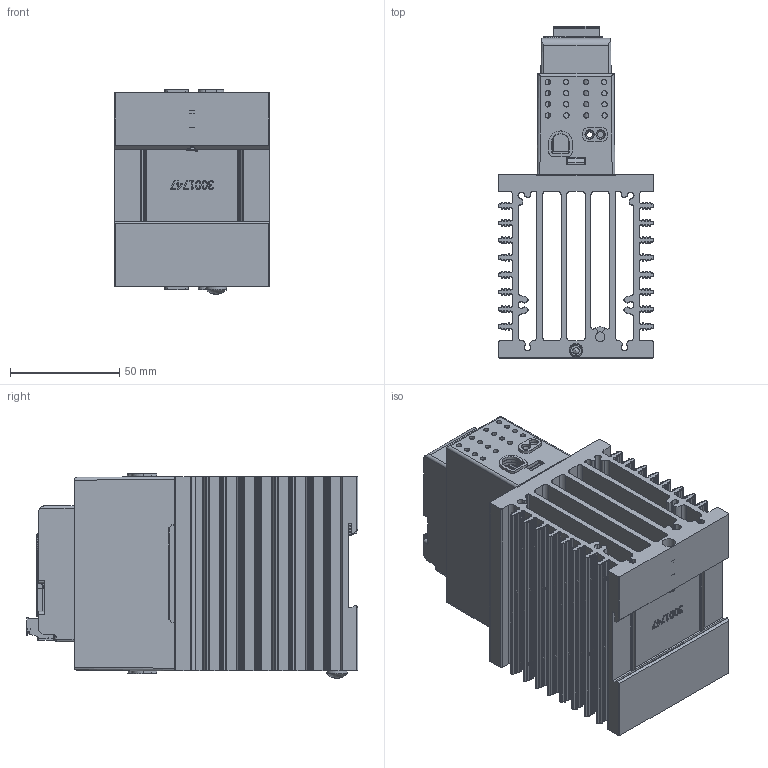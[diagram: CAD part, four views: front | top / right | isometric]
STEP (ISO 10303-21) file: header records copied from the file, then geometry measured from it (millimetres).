
FILE_DESCRIPTION(/* description */ (''),/* implementation_level */ '2;1');
FILE_NAME(/* name */ '1-phase Digital 50A.stp',/* time_stamp */ '2024-10-29T13:11:23-05:00',/* author */ ('ErikG'),/* organization */ (''),/* preprocessor_version */ 'ST-DEVELOPER v20',/* originating_system */ 'Autodesk Inventor 2025',/* authorisation */ '');
FILE_SCHEMA (('AUTOMOTIVE_DESIGN { 1 0 10303 214 3 1 1 }'));
Products named in the file (23): 3001631e; 3001762; 1001592E; P6; fci 6 pin header OQ06120000J0G; fci 6 pin headerOQ06120000J0G half 1; fci 5 pin header OQ05120000J0G half 2; 0053035-0138-06; P4; P5; usb-c31-s-vt-cs4-bk-pp-t-r-model ADAMTECH; P2; 74990101210 (rev1); base; shielding; 3001759; 3001760; 3001755; 3001756; 3001747; 0060783-0610-010.ipt; spring; 0060702-1032-0375
Assembly tree (24 placements, depth 5):
  3001631e
    3001762
    1001592E
      P6
        fci 6 pin header OQ06120000J0G
          fci 6 pin headerOQ06120000J0G half 1
          fci 5 pin header OQ05120000J0G half 2
          0053035-0138-06
      P4
        74990101210 (rev1)
          base
          shielding
      P5
        usb-c31-s-vt-cs4-bk-pp-t-r-model ADAMTECH
      P2
        74990101210 (rev1)
          base
          shielding
    3001759
    3001760  x2
    3001755
    3001756
    3001747
    0060783-0610-010.ipt
    spring
    0060702-1032-0375
Bounding box: 71.12 x 151.78 x 93.49 mm (x, y, z)
Volume: 264216.7 mm3; surface area: 217699.4 mm2
Topology: 19 solids, 109 shells, 6440 faces, 17669 edges, 11551 vertices
Faces by surface type: plane 4634, cylinder 1351, cone 211, bspline 155, torus 70, sphere 19
Full cylindrical faces by diameter (mm): 0.254 x1, 0.45 x2, 0.55 x2, 0.65 x2, 1 x2, 2.3 x12, 2.54 x2, 2.642 x3, 2.95 x6, 3.277 x2, 4.826 x1, 4.917 x1, 6 x1, 6.172 x1, 7.976 x1, 9.474 x1
Entity records: 197524 total; most frequent: CARTESIAN_POINT 49179, ORIENTED_EDGE 31294, DIRECTION 29265, EDGE_CURVE 15647, LINE 11775, VECTOR 11775, VERTEX_POINT 10253, AXIS2_PLACEMENT_3D 8745
